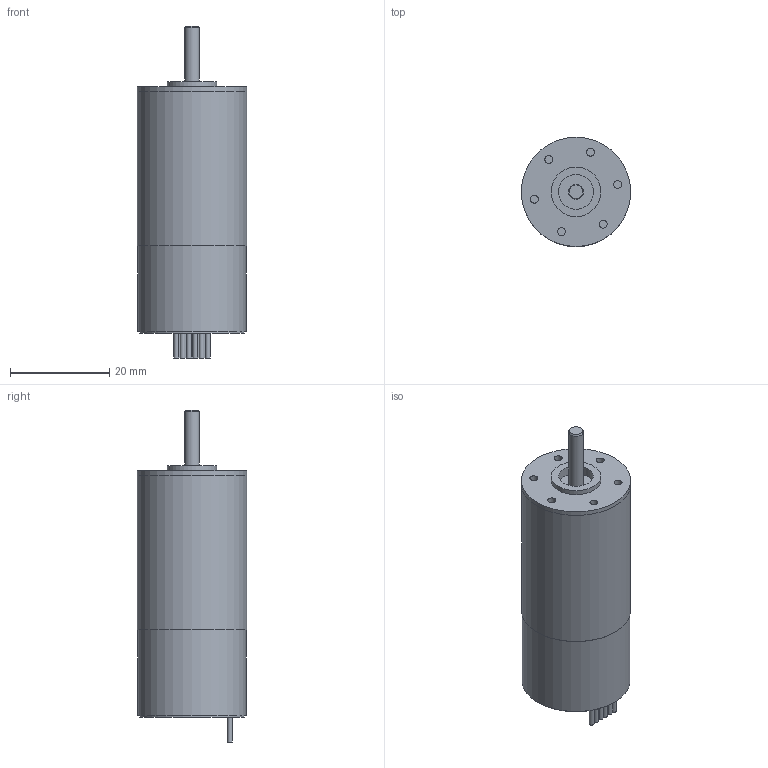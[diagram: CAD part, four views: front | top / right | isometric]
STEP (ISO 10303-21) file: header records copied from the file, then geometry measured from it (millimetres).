
FILE_DESCRIPTION(/* description */ (''),/* implementation_level */ '2;1');
FILE_NAME(/* name */ '2232.BX4_SC.stp',/* time_stamp */ '2012-10-31T07:30:02+01:00',/* author */ ('DR. FRITZ FAULHABER GmbH & Co. KG'),/* organization */ ('DR. FRITZ FAULHABER GmbH & Co. KG'),/* preprocessor_version */ 'ST-DEVELOPER v11',/* originating_system */ 'SIEMENS PLM Software NX 7.5',/* authorisation */ '');
FILE_SCHEMA (('AUTOMOTIVE_DESIGN { 1 0 10303 214 1 1 1 1 }'));
Length unit declared in the file: millimetre
Products named in the file (1): 2232.BX4_SC
Bounding box: 22 x 22 x 66.8 mm (x, y, z)
Volume: 18813.2 mm3; surface area: 4560.9 mm2
Topology: 1 solids, 1 shells, 51 faces, 106 edges, 71 vertices
Faces by surface type: plane 26, cylinder 24, cone 1
Full cylindrical faces by diameter (mm): 1.6 x6, 3 x1, 7 x1, 10 x1, 21.1 x1, 21.8 x1, 21.99 x1, 22 x2
Entity records: 1316 total; most frequent: DIRECTION 242, CARTESIAN_POINT 210, ORIENTED_EDGE 178, AXIS2_PLACEMENT_3D 101, EDGE_CURVE 89, EDGE_LOOP 80, VERTEX_POINT 69, FACE_BOUND 52
